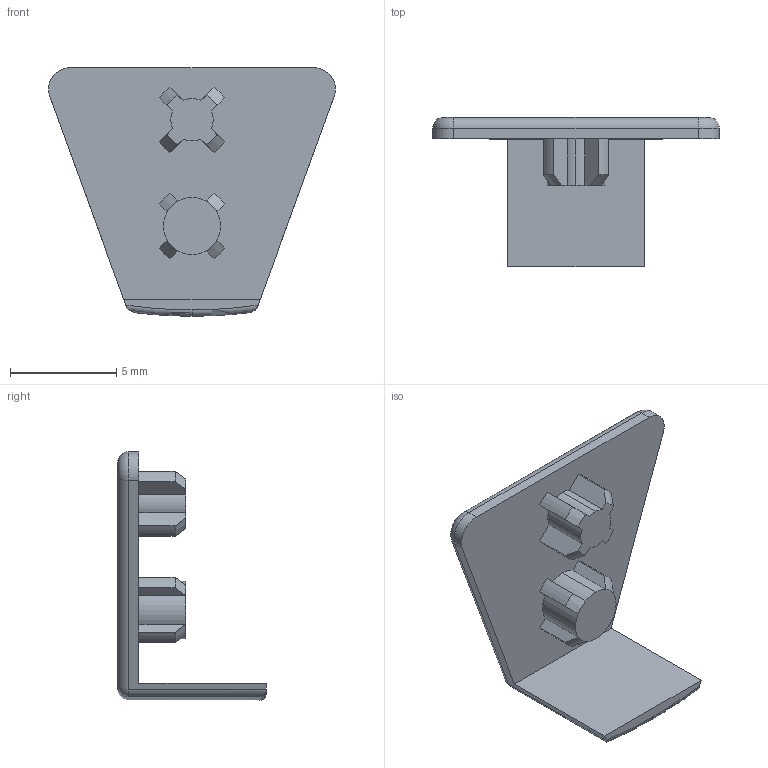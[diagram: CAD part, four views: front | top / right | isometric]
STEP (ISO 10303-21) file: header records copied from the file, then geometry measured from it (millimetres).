
FILE_DESCRIPTION (( 'STEP AP214' ), '1' );
FILE_NAME ('30900000006D.STEP', '2014-03-26T12:16:01', ( 'PC01TECNICO' ), ( 'Valbia' ), 'SwSTEP 2.0', 'SolidWorks 2010', '' );
FILE_SCHEMA (( 'AUTOMOTIVE_DESIGN' ));
Length unit declared in the file: millimetre
Products named in the file (1): 30900000006D
Bounding box: 13.51 x 7 x 11.7 mm (x, y, z)
Volume: 168.7 mm3; surface area: 401.3 mm2
Topology: 1 solids, 1 shells, 66 faces, 170 edges, 106 vertices
Faces by surface type: cylinder 26, plane 25, cone 8, torus 5, sphere 2
Entity records: 2053 total; most frequent: CARTESIAN_POINT 405, DIRECTION 349, ORIENTED_EDGE 336, EDGE_CURVE 168, AXIS2_PLACEMENT_3D 134, VERTEX_POINT 106, VECTOR 81, LINE 81
